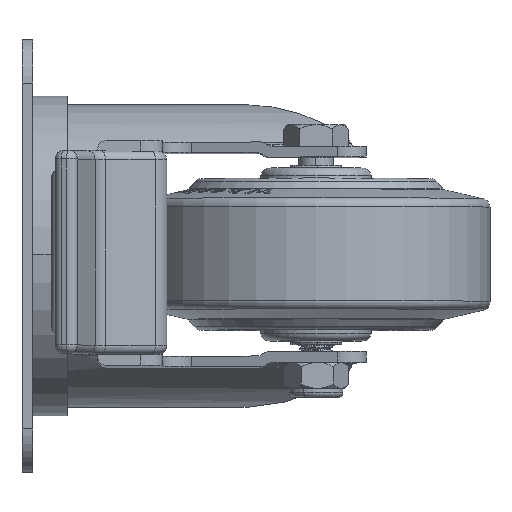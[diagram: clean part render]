
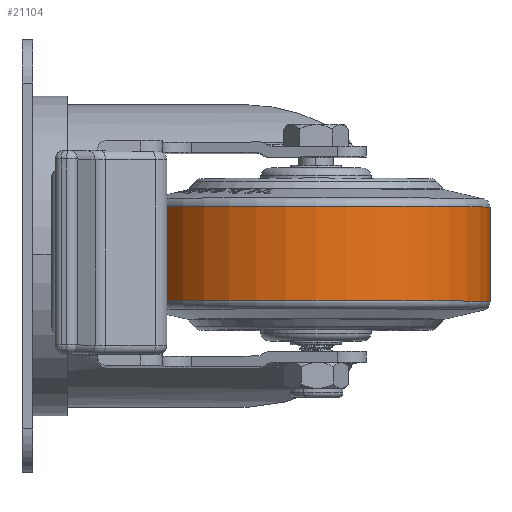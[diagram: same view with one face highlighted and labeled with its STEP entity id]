
A CAD part, left-side view. The second image highlights one B-rep face of the part: STEP entity #21104.
In plain terms, the highlighted cylindrical face has radius 40.25 mm (diameter 80.5 mm), a partial arc.
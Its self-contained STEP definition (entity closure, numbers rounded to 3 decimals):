
#451 = CARTESIAN_POINT ( 'NONE',  ( 0., -10.912, 0. ) ) ;
#2569 = AXIS2_PLACEMENT_3D ( 'NONE', #40546, #18091, #40298 ) ;
#3404 = DIRECTION ( 'NONE',  ( 0., 0., -1. ) ) ;
#4524 = VERTEX_POINT ( 'NONE', #33249 ) ;
#6323 = EDGE_LOOP ( 'NONE', ( #36758, #23896, #25514, #34876 ) ) ;
#7930 = VERTEX_POINT ( 'NONE', #10944 ) ;
#9632 = VERTEX_POINT ( 'NONE', #21759 ) ;
#9728 = DIRECTION ( 'NONE',  ( 0., 0., -1. ) ) ;
#10712 = EDGE_CURVE ( 'NONE', #14832, #4524, #18388, .T. ) ;
#10861 = DIRECTION ( 'NONE',  ( 0., -1., 0. ) ) ;
#10944 = CARTESIAN_POINT ( 'NONE',  ( 0., -10.912, -40.25 ) ) ;
#11775 = DIRECTION ( 'NONE',  ( 0., -1., 0. ) ) ;
#13543 = EDGE_CURVE ( 'NONE', #14832, #9632, #37798, .T. ) ;
#14832 = VERTEX_POINT ( 'NONE', #38911 ) ;
#18091 = DIRECTION ( 'NONE',  ( 0., -1., 0. ) ) ;
#18388 = CIRCLE ( 'NONE', #2569, 40.25 ) ;
#19042 = AXIS2_PLACEMENT_3D ( 'NONE', #451, #40994, #3404 ) ;
#19856 = CIRCLE ( 'NONE', #19042, 40.25 ) ;
#20956 = EDGE_CURVE ( 'NONE', #4524, #7930, #34245, .T. ) ;
#21104 = ADVANCED_FACE ( 'NONE', ( #21146 ), #32238, .T. ) ;
#21146 = FACE_OUTER_BOUND ( 'NONE', #6323, .T. ) ;
#21759 = CARTESIAN_POINT ( 'NONE',  ( 0., -10.912, 40.25 ) ) ;
#22594 = VECTOR ( 'NONE', #11775, 1000. ) ;
#23383 = VECTOR ( 'NONE', #10861, 1000. ) ;
#23896 = ORIENTED_EDGE ( 'NONE', *, *, #10712, .T. ) ;
#25514 = ORIENTED_EDGE ( 'NONE', *, *, #20956, .T. ) ;
#28634 = EDGE_CURVE ( 'NONE', #9632, #7930, #19856, .T. ) ;
#32044 = AXIS2_PLACEMENT_3D ( 'NONE', #35943, #32480, #9728 ) ;
#32238 = CYLINDRICAL_SURFACE ( 'NONE', #32044, 40.25 ) ;
#32480 = DIRECTION ( 'NONE',  ( 0., -1., 0. ) ) ;
#33249 = CARTESIAN_POINT ( 'NONE',  ( 0., 10.912, -40.25 ) ) ;
#34245 = LINE ( 'NONE', #34487, #22594 ) ;
#34487 = CARTESIAN_POINT ( 'NONE',  ( 0., 0., -40.25 ) ) ;
#34876 = ORIENTED_EDGE ( 'NONE', *, *, #28634, .F. ) ;
#35943 = CARTESIAN_POINT ( 'NONE',  ( 0., 0., 0. ) ) ;
#36758 = ORIENTED_EDGE ( 'NONE', *, *, #13543, .F. ) ;
#37798 = LINE ( 'NONE', #45241, #23383 ) ;
#38911 = CARTESIAN_POINT ( 'NONE',  ( 0., 10.912, 40.25 ) ) ;
#40298 = DIRECTION ( 'NONE',  ( 0., 0., -1. ) ) ;
#40546 = CARTESIAN_POINT ( 'NONE',  ( 0., 10.912, 0. ) ) ;
#40994 = DIRECTION ( 'NONE',  ( 0., -1., 0. ) ) ;
#45241 = CARTESIAN_POINT ( 'NONE',  ( 0., 0., 40.25 ) ) ;
